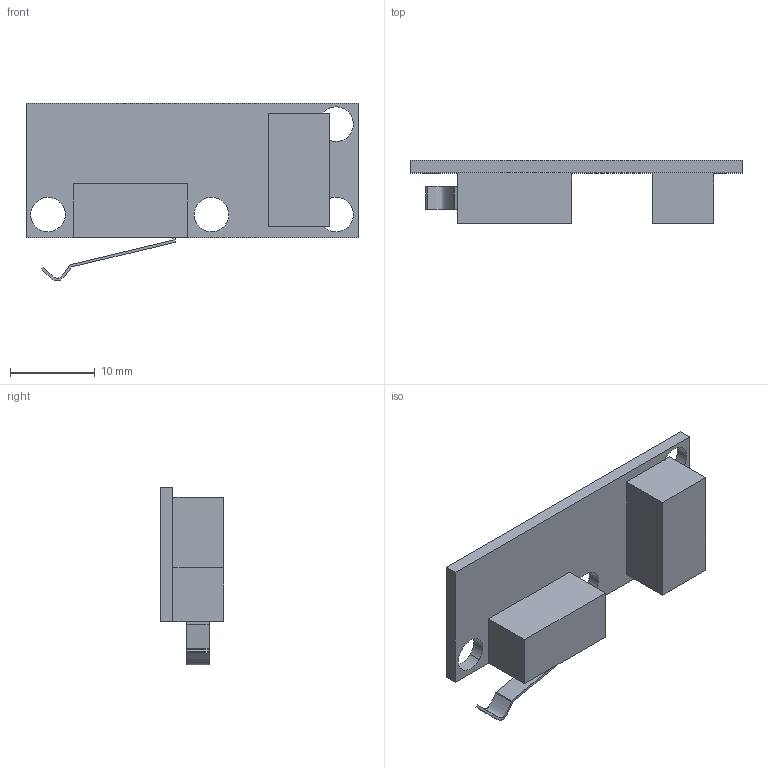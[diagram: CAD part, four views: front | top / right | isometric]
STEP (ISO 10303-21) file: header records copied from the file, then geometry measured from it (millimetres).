
FILE_DESCRIPTION(/* description */ (''),/* implementation_level */ '2;1');
FILE_NAME(/* name */ 'FINALD~1',/* time_stamp */ '2019-04-01T20:10:14-03:00',/* author */ (''),/* organization */ (''),/* preprocessor_version */ 'ST-DEVELOPER v16.5',/* originating_system */ '',/* authorisation */ '');
FILE_SCHEMA (('AUTOMOTIVE_DESIGN'));
Length unit declared in the file: millimetre
Products named in the file (1): Document
Bounding box: 39.1 x 7.5 x 20.93 mm (x, y, z)
Volume: 1957.7 mm3; surface area: 2329.4 mm2
Topology: 4 solids, 4 shells, 37 faces, 87 edges, 58 vertices
Faces by surface type: plane 20, bspline 17
Entity records: 1330 total; most frequent: CARTESIAN_POINT 718, ORIENTED_EDGE 174, EDGE_CURVE 87, B_SPLINE_CURVE_WITH_KNOTS 63, VERTEX_POINT 58, EDGE_LOOP 45, ADVANCED_FACE 37, FACE_OUTER_BOUND 37
